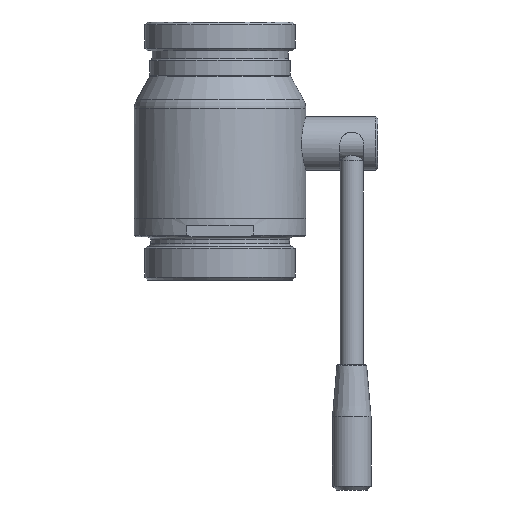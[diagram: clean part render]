
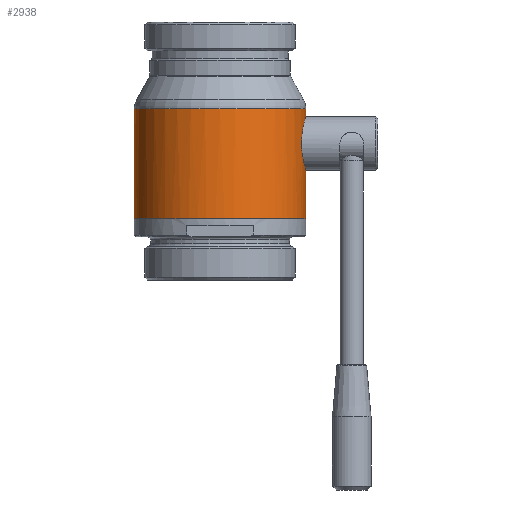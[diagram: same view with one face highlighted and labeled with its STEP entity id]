
A CAD part, left-side view. The second image highlights one B-rep face of the part: STEP entity #2938.
In plain terms, the highlighted cylindrical face has radius 44.45 mm (diameter 88.9 mm), a full revolution.
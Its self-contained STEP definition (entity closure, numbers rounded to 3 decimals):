
#185=B_SPLINE_CURVE_WITH_KNOTS('',3,(#4141,#4142,#4143,#4144,#4145,#4146,
#4147,#4148,#4149,#4150,#4151,#4152,#4153,#4154,#4155,#4156,#4157,#4158,
#4159,#4160),.UNSPECIFIED.,.T.,.F.,(1,1,1,1,1,1,1,1,1,1,1,1,1,1,1,1,1,1,
1,1,1,1,1,1),(-0.017,-0.011,-0.006,
0.,0.006,0.011,0.017,
0.022,0.028,0.033,0.039,
0.044,0.05,0.055,0.061,
0.063,0.066,0.072,0.077,
0.083,0.088,0.094,0.099,
0.105),.UNSPECIFIED.);
#220=ORIENTED_EDGE('',*,*,#614,.F.);
#221=ORIENTED_EDGE('',*,*,#615,.F.);
#222=ORIENTED_EDGE('',*,*,#613,.F.);
#613=EDGE_CURVE('',#813,#813,#992,.T.);
#614=EDGE_CURVE('',#814,#814,#185,.T.);
#615=EDGE_CURVE('',#815,#815,#993,.F.);
#813=VERTEX_POINT('',#4139);
#814=VERTEX_POINT('',#4161);
#815=VERTEX_POINT('',#4163);
#992=CIRCLE('',#3119,44.45);
#993=CIRCLE('',#3121,44.45);
#1159=EDGE_LOOP('',(#220));
#1160=EDGE_LOOP('',(#221));
#1161=EDGE_LOOP('',(#222));
#1461=FACE_BOUND('',#1159,.T.);
#1462=FACE_BOUND('',#1160,.T.);
#1463=FACE_BOUND('',#1161,.T.);
#1750=CYLINDRICAL_SURFACE('',#3120,44.45);
#2938=ADVANCED_FACE('',(#1461,#1462,#1463),#1750,.T.);
#3119=AXIS2_PLACEMENT_3D('',#4138,#3461,#3462);
#3120=AXIS2_PLACEMENT_3D('',#4140,#3463,#3464);
#3121=AXIS2_PLACEMENT_3D('',#4162,#3465,#3466);
#3461=DIRECTION('',(0.,0.,1.));
#3462=DIRECTION('',(1.,0.,0.));
#3463=DIRECTION('',(0.,0.,1.));
#3464=DIRECTION('',(1.,0.,0.));
#3465=DIRECTION('',(0.,0.,1.));
#3466=DIRECTION('',(1.,0.,0.));
#4138=CARTESIAN_POINT('',(0.,0.,57.));
#4139=CARTESIAN_POINT('',(44.45,0.,57.));
#4140=CARTESIAN_POINT('',(0.,0.,54.));
#4141=CARTESIAN_POINT('',(5.54,-44.207,52.253));
#4142=CARTESIAN_POINT('',(-0.002,-44.571,53.373));
#4143=CARTESIAN_POINT('',(-5.534,-44.208,52.256));
#4144=CARTESIAN_POINT('',(-10.156,-43.336,49.148));
#4145=CARTESIAN_POINT('',(-13.255,-42.445,44.531));
#4146=CARTESIAN_POINT('',(-14.371,-42.059,39.012));
#4147=CARTESIAN_POINT('',(-13.262,-42.443,33.478));
#4148=CARTESIAN_POINT('',(-10.151,-43.338,28.845));
#4149=CARTESIAN_POINT('',(-5.528,-44.208,25.743));
#4150=CARTESIAN_POINT('',(-0.007,-44.571,24.63));
#4151=CARTESIAN_POINT('',(5.521,-44.209,25.739));
#4152=CARTESIAN_POINT('',(10.15,-43.338,28.842));
#4153=CARTESIAN_POINT('',(12.739,-42.595,32.706));
#4154=CARTESIAN_POINT('',(13.814,-42.25,36.221));
#4155=CARTESIAN_POINT('',(14.186,-42.124,39.926));
#4156=CARTESIAN_POINT('',(13.259,-42.444,44.523));
#4157=CARTESIAN_POINT('',(10.155,-43.336,49.149));
#4158=CARTESIAN_POINT('',(5.54,-44.207,52.253));
#4159=CARTESIAN_POINT('',(-0.002,-44.571,53.373));
#4160=CARTESIAN_POINT('',(-5.534,-44.208,52.256));
#4161=CARTESIAN_POINT('',(0.,-44.45,53.));
#4162=CARTESIAN_POINT('',(0.,0.,0.));
#4163=CARTESIAN_POINT('',(44.45,0.,0.));
